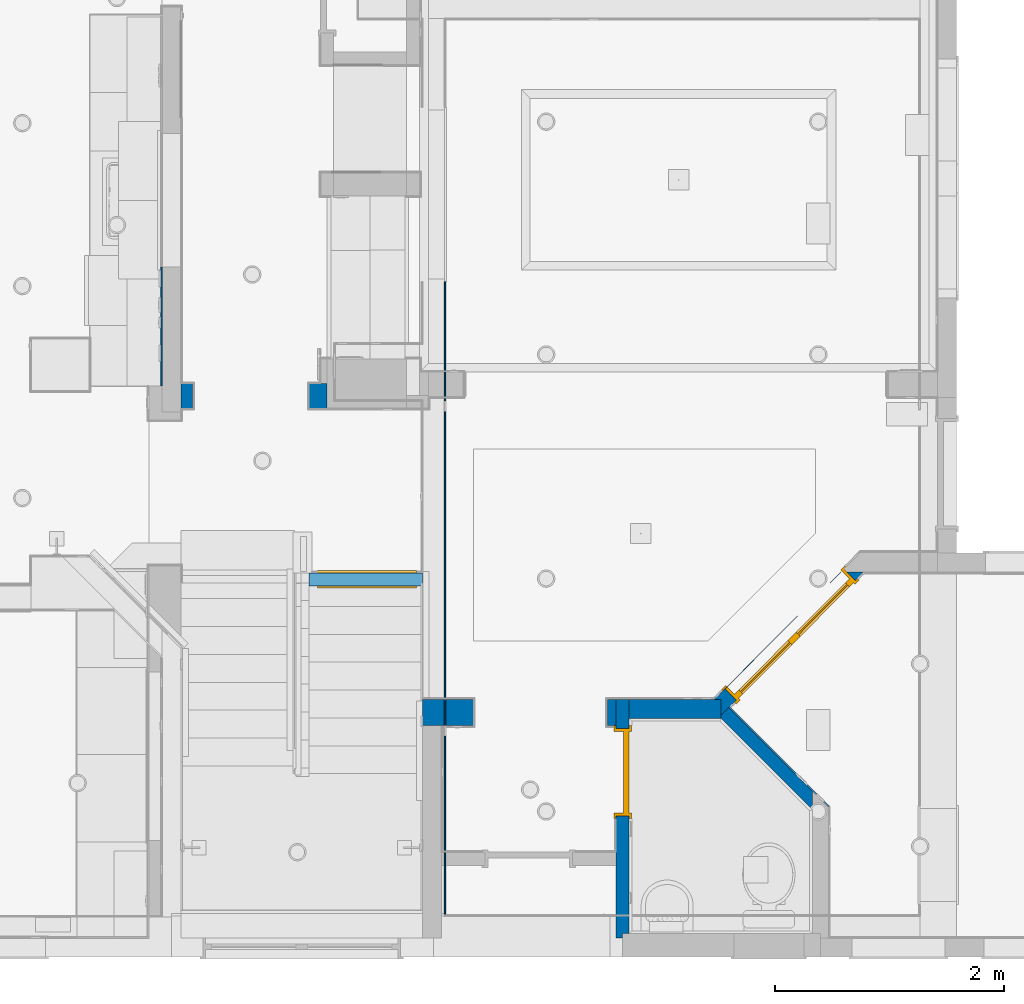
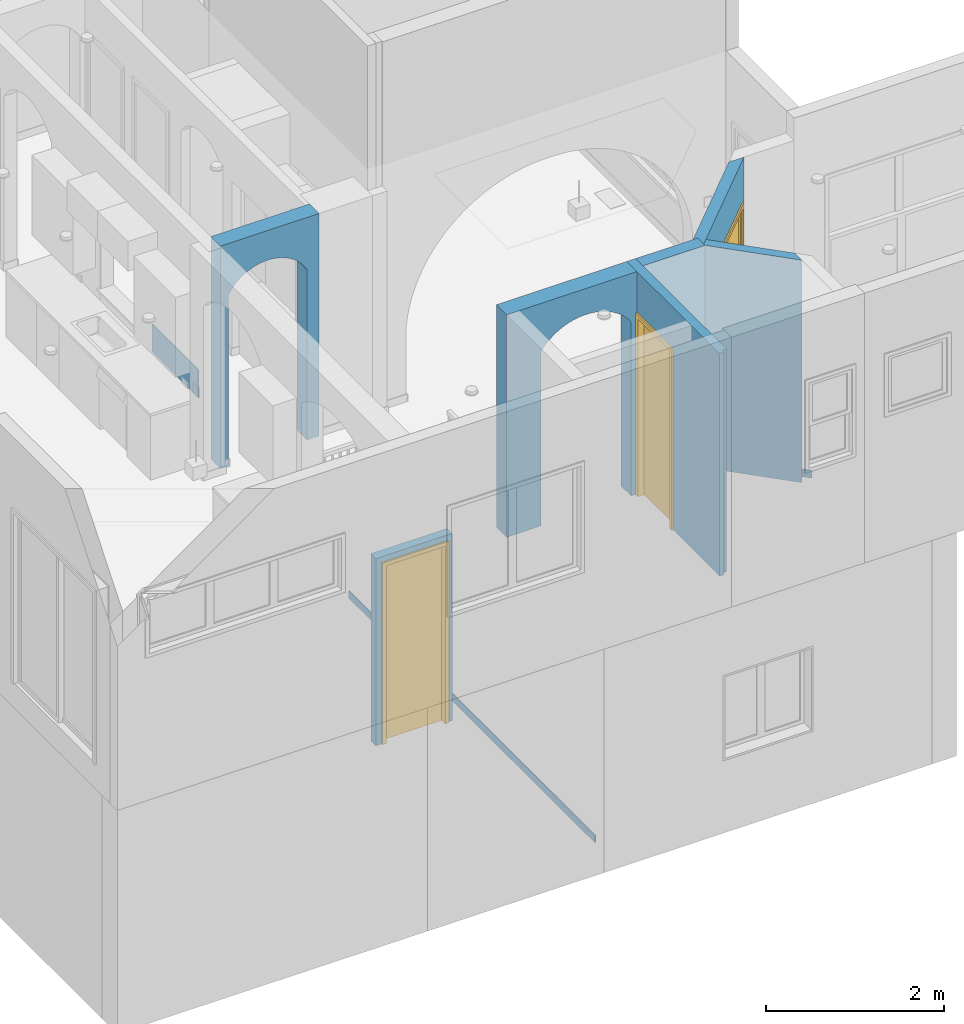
# One storey, part 5 of 60: 10 walls, 3 doors, 5 openings.
"""IFC2X3 building model written with IfcOpenShell, lengths in feet."""

from ifc_helpers import new_model, entity, si_unit, converted_unit, direction, frame, frame_2d, origin, origin_2d_with_axis, place, context, subcontext, project, spatial, polyline, circle_curve, parameter, trimmed, segment, composite_curve, rectangle, outline, extrude, clip, bounded_halfspace, faceted_brep, source, transform, mapped, material, material_list, layer, layer_set, layer_usage, type_object, type_shapes, element, fill, save


model = new_model("IFC2X3")

# Units and contexts
model_context = context("Model", 3, precision=0.0001, world=origin(), true_north=direction((6.123031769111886e-17, 1.0)))
plan_context = context("Plan", 3, precision=0.0001, world=origin(), true_north=direction((6.123031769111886e-17, 1.0)))
body_context = subcontext(model_context, "Body", "Model", "MODEL_VIEW")
ifc_project = project(units=[converted_unit("LENGTHUNIT", "FOOT", entity("IfcLengthMeasure", 0.3048), si_unit("LENGTHUNIT", "METRE"), dimensions=[1, 0, 0, 0, 0, 0, 0]), converted_unit("AREAUNIT", "SQUARE FOOT", entity("IfcAreaMeasure", 0.09290304), si_unit("AREAUNIT", "SQUARE_METRE"), dimensions=[2, 0, 0, 0, 0, 0, 0]), converted_unit("PLANEANGLEUNIT", "DEGREE", entity("IfcPlaneAngleMeasure", 0.017453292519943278), si_unit("PLANEANGLEUNIT", "RADIAN"), dimensions=[0, 0, 0, 0, 0, 0, 0])], contexts=[model_context, plan_context])

# Site, building, storey
site_placement = place(None, origin())
site = spatial("IfcSite", under=ifc_project, at=site_placement, Name="Default", CompositionType="ELEMENT")
building_placement = place(site_placement, origin())
building = spatial("IfcBuilding", under=site, at=building_placement, CompositionType="ELEMENT")
storey_placement = place(building_placement, origin())
storey = spatial("IfcBuildingStorey", under=building, at=storey_placement, Name="First floor", CompositionType="ELEMENT", Elevation=0.0)

# Wall
ifc_material_1 = material(Name="Default New Material")
ifc_layer_1 = layer(ifc_material_1, 0.5416666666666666)
ifc_layer_set_1 = layer_set([ifc_layer_1], Name="Basic Wall:Wall_6.5\"")
ifc_layer_usage_1 = layer_usage(ifc_layer_set_1, "AXIS2", "NEGATIVE", 0.2708333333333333)
wall_type_1 = type_object("IfcWallType", Name="Basic Wall:Wall_6.5\"", PredefinedType="STANDARD", material=ifc_layer_set_1)
wall_1_placement = place(storey_placement, frame((26.291666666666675, 7.1041666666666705, 10.666666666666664)))
element("IfcWallStandardCase", 1, at=wall_1_placement, inside=storey, type_object=wall_type_1, material=ifc_layer_usage_1, Name="Basic Wall:Wall_6.5\"", ObjectType="Basic Wall:Wall_6.5\"", context=body_context, shape_type="SweptSolid", body=[
    extrude(rectangle(XDim=2.6363365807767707, YDim=0.5416666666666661, at=frame_2d((1.3181682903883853, 0.0), x_axis=(-1.0, 0.0))), origin(), (0.0, 0.0, 1.0), 10.0),
])

# Wall, opening
ifc_layer_2 = layer(ifc_material_1, 0.7083333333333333)
ifc_layer_set_2 = layer_set([ifc_layer_2], Name="Basic Wall:Wall_8.5\"")
ifc_layer_usage_2 = layer_usage(ifc_layer_set_2, "AXIS2", "POSITIVE", -0.35416666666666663)
wall_type_2 = type_object("IfcWallType", Name="Basic Wall:Wall_8.5\"", PredefinedType="STANDARD", material=ifc_layer_set_2)
wall_2_placement = place(storey_placement, frame((17.64583333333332, 16.062154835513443, 10.666666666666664), z_axis=(0.0, 0.0, 1.0), x_axis=(-1.0, 0.0, 0.0)))
wall_2 = element("IfcWallStandardCase", 2, at=wall_2_placement, inside=storey, type_object=wall_type_2, material=ifc_layer_usage_2, Name="Basic Wall:Wall_8.5\"", ObjectType="Basic Wall:Wall_8.5\"", context=body_context, shape_type="SweptSolid", body=[
    extrude(rectangle(XDim=4.187499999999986, YDim=0.7083333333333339, at=frame_2d((2.093749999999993, -1.1934897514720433e-15), x_axis=(-1.0, 0.0))), origin(), (0.0, 0.0, 1.0), 10.0),
])
opening_1_placement = place(wall_2_placement, frame((17.645833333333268, 16.0621548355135, -10.666666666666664)))
element("IfcOpeningElement", 3, at=opening_1_placement, cuts=wall_2, Name="Basic Wall:Wall_8.5\"", ObjectType="Opening", context=body_context, shape_type="SweptSolid", body=[
    extrude(outline(composite_curve([segment(polyline([(-3.8333333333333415, -1.6666666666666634), (3.8333333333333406, -1.6666666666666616)]), True, "CONTINUOUS"), segment(polyline([(3.8333333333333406, -1.6666666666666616), (3.833333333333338, 1.666666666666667)]), True, "CONTINUOUS"), segment(polyline([(3.833333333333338, 1.666666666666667), (-3.8333333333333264, 1.6666666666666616)]), True, "CONTINUOUS"), segment(trimmed(circle_curve(frame_2d((-2.9444444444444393, 0.0), x_axis=(1.0, 0.0)), 1.888888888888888), [parameter(118.07248693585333)], [parameter(241.92751306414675)], True, "PARAMETER"), True, "CONTINUOUS")], self_intersect=False)), frame((-15.458333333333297, -16.54132150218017, 14.500000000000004), z_axis=(0.0, 1.0, 0.0), x_axis=(0.0, 0.0, -1.0)), (0.0, 0.0, 1.0), 0.8333333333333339),
])

# Wall
ifc_layer_3 = layer(ifc_material_1, 0.375)
ifc_layer_set_3 = layer_set([ifc_layer_3], Name="Basic Wall:Wall_4.5\"")
ifc_layer_usage_3 = layer_usage(ifc_layer_set_3, "AXIS2", "NEGATIVE", 0.1875)
wall_type_3 = type_object("IfcWallType", Name="Basic Wall:Wall_4.5\"", PredefinedType="STANDARD", material=ifc_layer_set_3)
wall_3_placement = place(storey_placement, frame((29.01388792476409, 7.012613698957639, 10.666666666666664), z_axis=(0.0, 0.0, 1.0), x_axis=(0.7071067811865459, -0.7071067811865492, 0.0)))
element("IfcWallStandardCase", 4, at=wall_3_placement, inside=storey, type_object=wall_type_3, material=ifc_layer_usage_3, Name="Basic Wall:Wall_4.5\"", ObjectType="Basic Wall:Wall_4.5\"", context=body_context, shape_type="Clipping", body=[
    clip(clip(clip(extrude(outline(polyline([(3.3873189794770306, 0.1875), (0.0, 0.18750000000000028), (0.0008172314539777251, -0.09821757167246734), (-0.02317308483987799, -0.09828619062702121), (0.06604072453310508, -0.18750000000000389), (3.7623189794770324, -0.18750000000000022), (3.3873189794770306, 0.1875)])), origin(), (0.0, 0.0, 1.0), 10.0), bounded_halfspace(frame((0.0008172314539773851, -0.09821757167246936, 0.0), z_axis=(0.9999959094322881, 0.0028602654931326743, 0.0), x_axis=(-0.0028602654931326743, 0.9999959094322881, 0.0)), True, frame((0.0008172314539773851, -0.09821757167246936, 0.0), z_axis=(0.9999959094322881, 0.0028602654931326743, 0.0), x_axis=(-0.0028602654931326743, 0.9999959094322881, 0.0)), polyline([(0.0, 0.0), (0.28571874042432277, 0.0), (0.28571874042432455, 10.0), (0.0, 10.0), (0.0, 0.0)]))), bounded_halfspace(frame((0.0008172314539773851, -0.09821757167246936, 10.0), z_axis=(0.0028602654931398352, -0.9999959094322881, 0.0), x_axis=(0.9999959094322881, 0.0028602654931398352, 0.0)), True, frame((0.0008172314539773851, -0.09821757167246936, 10.0), z_axis=(0.0028602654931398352, -0.9999959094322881, 0.0), x_axis=(0.9999959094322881, 0.0028602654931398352, 0.0)), polyline([(0.0, 0.0), (-0.023990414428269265, 0.0), (-0.023990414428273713, -10.0), (0.0, -10.0), (0.0, 0.0)]))), bounded_halfspace(frame((0.06604072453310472, -0.18749999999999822, 0.0), z_axis=(0.7071067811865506, 0.7071067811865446, 0.0), x_axis=(-0.7071067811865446, 0.7071067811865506, 0.0)), True, frame((0.06604072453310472, -0.18749999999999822, 0.0), z_axis=(0.7071067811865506, 0.7071067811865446, 0.0), x_axis=(-0.7071067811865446, 0.7071067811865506, 0.0)), polyline([(0.0, 0.0), (0.12616737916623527, 0.0), (0.12616737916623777, 10.0), (0.0, 10.0), (0.0, 0.0)]))),
])

# Wall, opening, door
wall_4_placement = place(storey_placement, frame((26.104166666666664, 0.5416666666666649, 10.666666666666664), z_axis=(0.0, 0.0, 1.0), x_axis=(0.0, 1.0, 0.0)))
wall_4 = element("IfcWall", 5, at=wall_4_placement, inside=storey, type_object=wall_type_3, Name="Basic Wall:Wall_4.5\"", ObjectType="Basic Wall:Wall_4.5\"", context=body_context, shape_type="Brep", body=[
    faceted_brep([(0.12500000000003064, -0.18749999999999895, 0.0), (3.5000000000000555, -0.18749999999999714, 0.0), (3.5000000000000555, -0.18749999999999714, 8.083333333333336), (6.0, -0.18750000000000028, 8.083333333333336), (6.0, -0.18750000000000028, 0.0), (6.291666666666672, -0.1874999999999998, 0.0), (6.833333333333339, -0.18749999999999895, 0.0), (6.833333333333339, -0.18749999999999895, 10.0), (6.291666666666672, -0.1874999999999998, 10.0), (0.12500000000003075, -0.18749999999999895, 10.0), (3.500000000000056, 0.18750000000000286, 8.083333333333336), (3.500000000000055, 0.18750000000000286, 0.0), (2.4583333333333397, 0.18750000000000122, 0.0), (2.0833333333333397, 0.1875000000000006, 0.0), (0.0, 0.18750000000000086, 0.0), (0.0, 0.18750000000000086, 10.0), (2.0833333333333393, 0.1875000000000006, 10.0), (2.4583333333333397, 0.18750000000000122, 10.0), (6.083333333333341, 0.18749999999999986, 10.0), (6.833333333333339, 0.18750000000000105, 10.0), (6.833333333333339, 0.18750000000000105, 0.0), (6.083333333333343, 0.18749999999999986, 0.0), (6.0, 0.18749999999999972, 0.0), (6.0, 0.18749999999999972, 8.083333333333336), (0.12500000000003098, 0.0, 0.0), (0.0, 0.0, 0.0), (0.0, 0.0, 10.0), (0.12500000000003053, 0.0, 10.0)], [[[0, 1, 2, 3, 4, 5, 6, 7, 8, 9]], [[10, 11, 12, 13, 14, 15, 16, 17, 18, 19, 20, 21, 22, 23]], [[14, 13, 12, 11, 1, 0, 24, 25]], [[9, 8, 7, 19, 18, 17, 16, 15, 26, 27]], [[0, 9, 27, 24]], [[27, 26, 25, 24]], [[26, 15, 14, 25]], [[7, 6, 20, 19]], [[2, 1, 11, 10]], [[3, 2, 10, 23]], [[4, 3, 23, 22]], [[22, 21, 20, 6, 5, 4]]]),
])
opening_2_placement = place(wall_4_placement, frame((6.0, 0.1874999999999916, 0.0)))
opening_2 = element("IfcOpeningElement", 6, at=opening_2_placement, cuts=wall_4, Name="C_Single Door:2'-4\" X 8'-0\":1", ObjectType="Opening", context=body_context, shape_type="SweptSolid", body=[
    extrude(rectangle(XDim=2.4999999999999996, YDim=8.083333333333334, at=frame_2d((4.041666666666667, 1.2500000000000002), x_axis=(0.0, 1.0))), frame((0.0, 0.0, 0.0), z_axis=(0.0, -1.0, 0.0), x_axis=(0.0, 0.0, 1.0)), (0.0, 0.0, 1.0), 0.375),
])
door_style_1 = type_object("IfcDoorStyle", Name="C_Single Door:2'-4\" X 8'-0\"", ConstructionType="NOTDEFINED", OperationType="SINGLE_SWING_RIGHT", ParameterTakesPrecedence=False, Sizeable=False, material=ifc_material_1)
shared_shape_1 = source(origin(), body_context, "Body", "SweptSolid", [
    extrude(rectangle(XDim=2.333333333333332, YDim=0.16666666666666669, at=origin_2d_with_axis()), frame((1.2500000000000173, 0.08333333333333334, 0.0)), (0.0, 0.0, 1.0), 8.0),
    extrude(outline(polyline([(-3.958333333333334, 1.1666666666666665), (4.041666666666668, 1.1666666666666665), (4.041666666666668, 1.3333333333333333), (-4.125000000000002, 1.3333333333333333), (-4.125000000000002, -1.3333333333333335), (4.041666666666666, -1.3333333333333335), (4.041666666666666, -1.1666666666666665), (-3.958333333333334, -1.1666666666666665), (-3.958333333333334, 1.1666666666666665)])), frame((1.2500000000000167, 0.0, 4.041666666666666), z_axis=(0.0, -1.0, 0.0), x_axis=(0.0, 0.0, -1.0)), (0.0, 0.0, 1.0), 0.0625),
    extrude(outline(polyline([(-3.958333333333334, 1.1666666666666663), (4.041666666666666, 1.1666666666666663), (4.041666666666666, 1.3333333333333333), (-4.125, 1.3333333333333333), (-4.125, -1.3333333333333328), (4.041666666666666, -1.3333333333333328), (4.041666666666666, -1.1666666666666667), (-3.958333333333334, -1.1666666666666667), (-3.958333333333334, 1.1666666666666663)])), frame((1.2500000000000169, 0.4375, 4.041666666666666), z_axis=(0.0, -1.0, 0.0), x_axis=(0.0, 0.0, -1.0)), (0.0, 0.0, 1.0), 0.0625),
    extrude(outline(polyline([(1.1666666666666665, -4.020833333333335), (1.249999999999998, -4.020833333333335), (1.2499999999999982, 4.0625), (-1.2499999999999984, 4.0625), (-1.2499999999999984, -4.020833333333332), (-1.1666666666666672, -4.020833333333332), (-1.1666666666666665, 3.979166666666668), (1.1666666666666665, 3.979166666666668), (1.1666666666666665, -4.020833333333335)])), frame((1.2500000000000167, 0.375, 4.020833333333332), z_axis=(0.0, -1.0, 0.0), x_axis=(1.0, 0.0, 0.0)), (0.0, 0.0, 1.0), 0.375),
])
type_shapes(door_style_1, [shared_shape_1])
door_1_placement = place(opening_2_placement, frame((-2.499999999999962, -0.37499999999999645, 0.0)))
door_1 = element("IfcDoor", 7, at=door_1_placement, inside=storey, type_object=door_style_1, material=ifc_material_1, Name="C_Single Door:2'-4\" X 8'-0\"", ObjectType="C_Single Door:2'-4\" X 8'-0\"", OverallHeight=8.083333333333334, OverallWidth=2.5, context=body_context, shape_type="MappedRepresentation", body=[
    mapped(shared_shape_1, transform((0.0, 0.0, 0.0), scale=1.0)),
])
fill(opening_2, door_1)

ifc_layer_usage_4 = layer_usage(ifc_layer_set_3, "AXIS2", "NEGATIVE", 0.1875)
wall_5_placement = place(storey_placement, frame((20.37499999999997, 10.812499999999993, 0.0), z_axis=(0.0, 0.0, 1.0), x_axis=(-1.0, 0.0, 0.0)))
wall_5 = element("IfcWallStandardCase", 8, at=wall_5_placement, inside=storey, type_object=wall_type_3, material=ifc_layer_usage_4, Name="Basic Wall:Wall_4.5\"", ObjectType="Basic Wall:Wall_4.5\"", context=body_context, shape_type="SweptSolid", body=[
    extrude(rectangle(XDim=3.250000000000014, YDim=0.375, at=frame_2d((1.625000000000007, -6.245004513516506e-16), x_axis=(1.0, 0.0))), origin(), (0.0, 0.0, 1.0), 8.416666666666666),
])
opening_3_placement = place(wall_5_placement, frame((2.9166666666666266, 0.18749999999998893, 0.0)))
opening_3 = element("IfcOpeningElement", 9, at=opening_3_placement, cuts=wall_5, Name="C_Single Door:2'-6\" X 8'-0\":1", ObjectType="Opening", context=body_context, shape_type="SweptSolid", body=[
    extrude(rectangle(XDim=2.666666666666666, YDim=8.083333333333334, at=frame_2d((4.041666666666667, 1.333333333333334), x_axis=(0.0, -1.0))), frame((0.0, 0.0, 0.0), z_axis=(0.0, -1.0, 0.0), x_axis=(0.0, 0.0, 1.0)), (0.0, 0.0, 1.0), 0.375),
])
door_style_2 = type_object("IfcDoorStyle", Name="C_Single Door:2'-6\" X 8'-0\"", ConstructionType="NOTDEFINED", OperationType="SINGLE_SWING_LEFT", ParameterTakesPrecedence=False, Sizeable=False, material=ifc_material_1)
shared_shape_2 = source(origin(), body_context, "Body", "SweptSolid", [
    extrude(rectangle(XDim=0.16666666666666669, YDim=2.499999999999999, at=origin_2d_with_axis()), frame((1.3333333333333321, 0.08333333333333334, 0.0), z_axis=(0.0, 0.0, 1.0), x_axis=(0.0, 1.0, 0.0)), (0.0, 0.0, 1.0), 8.0),
    extrude(outline(polyline([(-3.958333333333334, 1.2499999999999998), (4.041666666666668, 1.2499999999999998), (4.041666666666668, 1.4166666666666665), (-4.125000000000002, 1.4166666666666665), (-4.125000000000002, -1.4166666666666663), (4.041666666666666, -1.4166666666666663), (4.041666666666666, -1.2499999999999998), (-3.958333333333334, -1.2499999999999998), (-3.958333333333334, 1.2499999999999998)])), frame((1.333333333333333, -0.0625, 4.041666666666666), z_axis=(0.0, 1.0, 0.0), x_axis=(0.0, 0.0, -1.0)), (0.0, 0.0, 1.0), 0.0625),
    extrude(outline(polyline([(-3.958333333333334, 1.2499999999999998), (4.041666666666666, 1.2499999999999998), (4.041666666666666, 1.4166666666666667), (-4.125, 1.4166666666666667), (-4.125, -1.4166666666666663), (4.041666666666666, -1.4166666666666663), (4.041666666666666, -1.2500000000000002), (-3.958333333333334, -1.2500000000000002), (-3.958333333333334, 1.2499999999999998)])), frame((1.3333333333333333, 0.375, 4.041666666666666), z_axis=(0.0, 1.0, 0.0), x_axis=(0.0, 0.0, -1.0)), (0.0, 0.0, 1.0), 0.0625),
    extrude(outline(polyline([(-4.020833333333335, -1.3333333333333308), (4.062499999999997, -1.3333333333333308), (4.062499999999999, 1.3333333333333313), (-4.020833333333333, 1.3333333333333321), (-4.020833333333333, 1.2499999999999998), (3.979166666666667, 1.2499999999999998), (3.979166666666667, -1.2499999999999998), (-4.020833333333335, -1.2499999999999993), (-4.020833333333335, -1.3333333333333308)])), frame((1.3333333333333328, 0.0, 4.020833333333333), z_axis=(0.0, 1.0, 0.0), x_axis=(0.0, 0.0, 1.0)), (0.0, 0.0, 1.0), 0.375),
])
type_shapes(door_style_2, [shared_shape_2])
door_2_placement = place(opening_3_placement, frame((-2.666666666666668, -0.37499999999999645, 0.0)))
door_2 = element("IfcDoor", 10, at=door_2_placement, inside=storey, type_object=door_style_2, material=ifc_material_1, Name="C_Single Door:2'-6\" X 8'-0\"", ObjectType="C_Single Door:2'-6\" X 8'-0\"", OverallHeight=8.083333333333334, OverallWidth=2.666666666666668, context=body_context, shape_type="MappedRepresentation", body=[
    mapped(shared_shape_2, transform((0.0, 0.0, 0.0), scale=1.0)),
])
fill(opening_3, door_2)

ifc_layer_4 = layer(ifc_material_1, 0.45833333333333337)
ifc_layer_set_4 = layer_set([ifc_layer_4], Name="Basic Wall:Wall_5.5\"")
ifc_layer_usage_5 = layer_usage(ifc_layer_set_4, "AXIS2", "NEGATIVE", 0.22916666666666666)
wall_type_4 = type_object("IfcWallType", Name="Basic Wall:Wall_5.5\"", PredefinedType="STANDARD", material=ifc_layer_set_4)
wall_6_placement = place(storey_placement, frame((32.837491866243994, 11.182414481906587, 10.666666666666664), z_axis=(0.0, 0.0, 1.0), x_axis=(-0.7050813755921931, -0.7091264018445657, 0.0)))
wall_6 = element("IfcWallStandardCase", 11, at=wall_6_placement, inside=storey, type_object=wall_type_4, material=ifc_layer_usage_5, Name="Basic Wall:Wall_5.5\"", ObjectType="Basic Wall:Wall_5.5\"", context=body_context, shape_type="Clipping", body=[
    clip(clip(extrude(outline(polyline([(5.75108725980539, 0.22916666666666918), (5.465368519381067, 0.22916666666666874), (0.0, 0.22916666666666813), (0.4557188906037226, -0.22916666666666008), (5.597021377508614, -0.22916666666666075), (5.4564457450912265, -0.08778455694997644), (5.75108725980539, 0.20517625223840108), (5.75108725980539, 0.22916666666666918)])), origin(), (0.0, 0.0, 1.0), 10.0), bounded_halfspace(frame((5.456445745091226, -0.08778455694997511, 0.0), z_axis=(-0.709126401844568, -0.7050813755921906, 0.0), x_axis=(0.7050813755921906, -0.709126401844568, 0.0)), True, frame((5.456445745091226, -0.08778455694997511, 0.0), z_axis=(-0.709126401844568, -0.7050813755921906, 0.0), x_axis=(0.7050813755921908, -0.7091264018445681, 0.0)), polyline([(0.0, 0.0), (0.1993750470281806, 0.0), (0.19937504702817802, 10.0), (0.0, 10.0), (0.0, 0.0)]))), bounded_halfspace(frame((5.456445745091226, -0.08778455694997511, 10.0), z_axis=(-0.7050813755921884, 0.7091264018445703, 0.0), x_axis=(-0.7091264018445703, -0.7050813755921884, 0.0)), True, frame((5.456445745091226, -0.08778455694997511, 10.0), z_axis=(-0.7050813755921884, 0.7091264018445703, 0.0), x_axis=(-0.7091264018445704, -0.7050813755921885, 0.0)), polyline([(0.0, 0.0), (-0.4154992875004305, 0.0), (-0.415499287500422, -10.0), (0.0, -10.0), (0.0, 0.0)]))),
])
opening_4_placement = place(wall_6_placement, frame((0.333987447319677, -0.22821230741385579, 0.0)))
opening_4 = element("IfcOpeningElement", 12, at=opening_4_placement, cuts=wall_6, Name="C_Double Door Glass:4'-8\" X 8'-0\":1", ObjectType="Opening", context=body_context, shape_type="SweptSolid", body=[
    extrude(rectangle(XDim=8.083333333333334, YDim=4.833333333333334, at=frame_2d((4.041666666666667, 2.416666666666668), x_axis=(-1.0, 0.0))), frame((0.0, 0.0, 0.0), z_axis=(-0.002860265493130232, 0.9999959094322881, 0.0), x_axis=(0.0, 0.0, 1.0)), (0.0, 0.0, 1.0), 0.4583333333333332),
])
ifc_material_2 = material(Name="Glass")
ifc_material_list = material_list([ifc_material_1, ifc_material_2])
door_style_3 = type_object("IfcDoorStyle", Name="C_Double Door Glass:4'-8\" X 8'-0\"", ConstructionType="NOTDEFINED", OperationType="DOUBLE_DOOR_SINGLE_SWING_OPPOSITE_RIGHT", ParameterTakesPrecedence=False, Sizeable=False, material=ifc_material_list)
shared_shape_3 = source(origin(), body_context, "Body", "SweptSolid", [
    extrude(rectangle(XDim=1.9999999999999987, YDim=0.04166666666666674, at=origin_2d_with_axis()), frame((3.5833333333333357, 0.08333333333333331, 2.7013888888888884), z_axis=(0.0, 0.0, 1.0), x_axis=(-1.0, 0.0, 0.0)), (0.0, 0.0, 1.0), 0.04166666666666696),
    extrude(rectangle(XDim=1.9999999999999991, YDim=0.04166666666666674, at=origin_2d_with_axis()), frame((3.583333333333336, 0.08333333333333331, 5.256944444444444), z_axis=(0.0, 0.0, 1.0), x_axis=(-1.0, 0.0, 0.0)), (0.0, 0.0, 1.0), 0.041666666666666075),
    extrude(rectangle(XDim=0.04166666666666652, YDim=0.04166666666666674, at=frame_2d((5.551115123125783e-17, 0.0), x_axis=(1.0, 0.0))), frame((3.25, 0.08333333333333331, 0.16666666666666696), z_axis=(0.0, 0.0, 1.0), x_axis=(-1.0, 0.0, 0.0)), (0.0, 0.0, 1.0), 7.666666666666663),
    extrude(rectangle(XDim=0.04166666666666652, YDim=0.04166666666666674, at=origin_2d_with_axis()), frame((3.916666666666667, 0.08333333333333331, 0.16666666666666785), z_axis=(0.0, 0.0, 1.0), x_axis=(-1.0, 0.0, 0.0)), (0.0, 0.0, 1.0), 7.666666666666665),
    extrude(rectangle(XDim=1.9999999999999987, YDim=0.04166666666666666, at=frame_2d((0.0, -1.3877787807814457e-17), x_axis=(1.0, 0.0))), frame((3.5833333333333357, 0.08333333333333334, 0.16666666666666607), z_axis=(0.0, 0.0, 1.0), x_axis=(-1.0, 0.0, 0.0)), (0.0, 0.0, 1.0), 7.666666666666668),
    extrude(outline(polyline([(-1.166666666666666, -4.0), (1.166666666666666, -4.0), (1.166666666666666, 4.0), (-1.166666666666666, 4.0), (-1.166666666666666, -4.0)]), holes=[polyline([(1.0, -3.833333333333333), (-1.0, -3.833333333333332), (-1.0, 3.833333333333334), (1.0, 3.833333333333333), (1.0, -3.833333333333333)])]), frame((3.5833333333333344, 0.0, 4.0), z_axis=(0.0, 1.0, 0.0), x_axis=(1.0, 0.0, 0.0)), (0.0, 0.0, 1.0), 0.16666666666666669),
    extrude(rectangle(XDim=0.04166666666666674, YDim=1.9999999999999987, at=frame_2d((0.0, 2.220446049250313e-16), x_axis=(1.0, 0.0))), frame((1.2499999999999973, 0.08333333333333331, 2.7013888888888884), z_axis=(0.0, 0.0, 1.0), x_axis=(0.0, -1.0, 0.0)), (0.0, 0.0, 1.0), 0.04166666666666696),
    extrude(rectangle(XDim=0.04166666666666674, YDim=1.9999999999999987, at=frame_2d((0.0, 2.220446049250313e-16), x_axis=(1.0, 0.0))), frame((1.2499999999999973, 0.08333333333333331, 5.256944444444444), z_axis=(0.0, 0.0, 1.0), x_axis=(0.0, -1.0, 0.0)), (0.0, 0.0, 1.0), 0.041666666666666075),
    extrude(rectangle(XDim=0.04166666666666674, YDim=0.04166666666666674, at=frame_2d((0.0, -5.551115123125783e-17), x_axis=(1.0, 0.0))), frame((1.5833333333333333, 0.08333333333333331, 0.16666666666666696), z_axis=(0.0, 0.0, 1.0), x_axis=(0.0, -1.0, 0.0)), (0.0, 0.0, 1.0), 7.666666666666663),
    extrude(rectangle(XDim=0.04166666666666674, YDim=0.04166666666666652, at=origin_2d_with_axis()), frame((0.9166666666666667, 0.08333333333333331, 0.16666666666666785), z_axis=(0.0, 0.0, 1.0), x_axis=(0.0, -1.0, 0.0)), (0.0, 0.0, 1.0), 7.666666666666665),
    extrude(rectangle(XDim=0.04166666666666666, YDim=1.9999999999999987, at=frame_2d((-1.3877787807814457e-17, 2.220446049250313e-16), x_axis=(1.0, 0.0))), frame((1.2499999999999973, 0.08333333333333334, 0.16666666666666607), z_axis=(0.0, 0.0, 1.0), x_axis=(0.0, -1.0, 0.0)), (0.0, 0.0, 1.0), 7.666666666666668),
    extrude(outline(polyline([(-4.0, -1.166666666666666), (4.0, -1.166666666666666), (4.0, 1.166666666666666), (-4.0, 1.166666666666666), (-4.0, -1.166666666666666)]), holes=[polyline([(-3.833333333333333, 1.0), (3.833333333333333, 1.0), (3.833333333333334, -1.0), (-3.833333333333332, -1.0), (-3.833333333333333, 1.0)])]), frame((1.2499999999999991, 0.0, 4.0), z_axis=(0.0, 1.0, 0.0), x_axis=(0.0, 0.0, -1.0)), (0.0, 0.0, 1.0), 0.16666666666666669),
    extrude(outline(polyline([(-3.958333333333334, 2.333333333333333), (4.041666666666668, 2.333333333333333), (4.041666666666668, 2.4999999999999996), (-4.125, 2.4999999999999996), (-4.125, -2.499999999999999), (4.041666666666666, -2.499999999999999), (4.041666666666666, -2.333333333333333), (-3.958333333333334, -2.333333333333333), (-3.958333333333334, 2.333333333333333)])), frame((2.4166666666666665, -0.06249999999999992, 4.041666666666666), z_axis=(0.0, 1.0, 0.0), x_axis=(0.0, 0.0, -1.0)), (0.0, 0.0, 1.0), 0.06249999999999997),
    extrude(outline(polyline([(-3.958333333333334, 2.333333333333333), (4.041666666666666, 2.333333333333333), (4.041666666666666, 2.5), (-4.125, 2.5), (-4.125, -2.499999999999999), (4.041666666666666, -2.499999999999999), (4.041666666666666, -2.333333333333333), (-3.958333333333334, -2.333333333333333), (-3.958333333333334, 2.333333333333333)])), frame((2.416666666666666, 0.45833333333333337, 4.041666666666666), z_axis=(0.0, 1.0, 0.0), x_axis=(0.0, 0.0, -1.0)), (0.0, 0.0, 1.0), 0.06249999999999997),
    extrude(outline(polyline([(-4.020833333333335, -2.4166666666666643), (4.062499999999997, -2.4166666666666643), (4.062499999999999, 2.4166666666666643), (-4.020833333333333, 2.416666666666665), (-4.020833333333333, 2.3333333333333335), (3.979166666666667, 2.3333333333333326), (3.979166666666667, -2.3333333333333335), (-4.020833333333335, -2.3333333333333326), (-4.020833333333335, -2.4166666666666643)])), frame((2.416666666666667, 0.0, 4.020833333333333), z_axis=(0.0, 1.0, 0.0), x_axis=(0.0, 0.0, 1.0)), (0.0, 0.0, 1.0), 0.45833333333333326),
])
type_shapes(door_style_3, [shared_shape_3])
door_3_placement = place(opening_4_placement, frame((4.832002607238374, 0.4721560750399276, 0.0), z_axis=(0.0, 0.0, 1.0), x_axis=(-1.0, 0.0, 0.0)))
door_3 = element("IfcDoor", 13, at=door_3_placement, inside=storey, type_object=door_style_3, material=ifc_material_list, Name="C_Double Door Glass:4'-8\" X 8'-0\"", ObjectType="C_Double Door Glass:4'-8\" X 8'-0\"", OverallHeight=8.083333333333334, OverallWidth=4.833333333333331, context=body_context, shape_type="MappedRepresentation", body=[
    mapped(shared_shape_3, transform((0.0, 0.0, 0.0), scale=1.0)),
])
fill(opening_4, door_3)

# Wall, opening
ifc_layer_5 = layer(ifc_material_1, 0.75)
ifc_layer_set_5 = layer_set([ifc_layer_5], Name="Basic Wall:Wall_9\"")
ifc_layer_usage_6 = layer_usage(ifc_layer_set_5, "AXIS2", "NEGATIVE", 0.37500000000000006)
wall_type_5 = type_object("IfcWallType", Name="Basic Wall:Wall_9\"", PredefinedType="STANDARD", material=ifc_layer_set_5)
wall_7_placement = place(storey_placement, frame((25.916666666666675, 7.0, 10.666666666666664), z_axis=(0.0, 0.0, 1.0), x_axis=(-1.0, 0.0, 0.0)))
wall_7 = element("IfcWallStandardCase", 14, at=wall_7_placement, inside=storey, type_object=wall_type_5, material=ifc_layer_usage_6, Name="Basic Wall:Wall_9\"", ObjectType="Basic Wall:Wall_9\"", context=body_context, shape_type="SweptSolid", body=[
    extrude(rectangle(XDim=5.541666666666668, YDim=0.7500000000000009, at=frame_2d((2.770833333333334, -4.440892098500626e-16), x_axis=(1.0, 0.0))), origin(), (0.0, 0.0, 1.0), 10.0),
])
opening_5_placement = place(wall_7_placement, frame((25.916666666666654, 7.0, -10.666666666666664)))
element("IfcOpeningElement", 15, at=opening_5_placement, cuts=wall_7, Name="Basic Wall:Wall_9\"", ObjectType="Opening", context=body_context, shape_type="SweptSolid", body=[
    extrude(outline(composite_curve([segment(trimmed(circle_curve(frame_2d((-2.5798611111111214, 0.0), x_axis=(1.0, 0.0)), 2.3368055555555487), [parameter(124.89437684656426)], [parameter(235.10562315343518)], True, "PARAMETER"), True, "CONTINUOUS"), segment(polyline([(-3.916666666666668, -1.9166666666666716), (3.916666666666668, -1.9166666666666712)]), True, "CONTINUOUS"), segment(polyline([(3.916666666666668, -1.9166666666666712), (3.916666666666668, 1.9166666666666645)]), True, "CONTINUOUS"), segment(polyline([(3.916666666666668, 1.9166666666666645), (-3.916666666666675, 1.916666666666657)]), True, "CONTINUOUS")], self_intersect=False)), frame((-23.74999999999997, -7.375000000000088, 14.583333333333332), z_axis=(0.0, 1.0, 0.0), x_axis=(0.0, 0.0, -1.0)), (0.0, 0.0, 1.0), 0.75),
])

# Walls
ifc_layer_6 = layer(ifc_material_1, 0.041666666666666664)
ifc_layer_set_6 = layer_set([ifc_layer_6], Name="Basic Wall:Wall Border_T1")
ifc_layer_usage_7 = layer_usage(ifc_layer_set_6, "AXIS2", "POSITIVE", -0.020833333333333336)
wall_type_6 = type_object("IfcWallType", Name="Basic Wall:Wall Border_T1", PredefinedType="STANDARD", material=ifc_layer_set_6)
wall_8_placement = place(storey_placement, frame((21.02083333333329, 1.2083333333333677, 0.0), z_axis=(0.0, 0.0, 1.0), x_axis=(0.0, 1.0, 0.0)))
element("IfcWallStandardCase", 16, at=wall_8_placement, inside=storey, type_object=wall_type_6, material=ifc_layer_usage_7, Name="Basic Wall:Wall Border_T1", ObjectType="Basic Wall:Wall Border_T1", context=body_context, shape_type="SweptSolid", body=[
    extrude(rectangle(XDim=18.12499999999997, YDim=0.0416666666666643, at=frame_2d((9.062499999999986, -1.6132928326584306e-16), x_axis=(-1.0, 0.0))), origin(), (0.0, 0.0, 1.0), 0.3333333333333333),
])
ifc_layer_usage_8 = layer_usage(ifc_layer_set_6, "AXIS2", "POSITIVE", -0.020833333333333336)
wall_9_placement = place(storey_placement, frame((32.01473139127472, 4.306398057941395, 10.666666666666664), z_axis=(0.0, 0.0, 1.0), x_axis=(-0.707106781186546, 0.7071067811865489, 0.0)))
element("IfcWallStandardCase", 17, at=wall_9_placement, inside=storey, type_object=wall_type_6, material=ifc_layer_usage_8, Name="Basic Wall:Wall Border_T1", ObjectType="Basic Wall:Wall Border_T1", context=body_context, shape_type="SweptSolid", body=[
    extrude(outline(polyline([(4.035619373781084, -0.02083333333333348), (4.035500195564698, 0.020833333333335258), (0.0, 0.020833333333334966), (0.0416666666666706, -0.02083333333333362), (3.993952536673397, -0.020833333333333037), (4.035619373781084, -0.02083333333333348)])), origin(), (0.0, 0.0, 1.0), 0.3333333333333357),
])
ifc_layer_usage_9 = layer_usage(ifc_layer_set_6, "AXIS2", "NEGATIVE", 0.020833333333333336)
wall_10_placement = place(storey_placement, frame((12.89583333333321, 19.74965483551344, 13.666666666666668), z_axis=(0.0, 0.0, 1.0), x_axis=(0.0, -1.0, 0.0)))
element("IfcWallStandardCase", 18, at=wall_10_placement, inside=storey, type_object=wall_type_6, material=ifc_layer_usage_9, Name="Basic Wall:Wall Border_T1", ObjectType="Basic Wall:Wall Border_T1", context=body_context, shape_type="SweptSolid", body=[
    extrude(rectangle(XDim=3.395833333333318, YDim=0.04166666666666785, at=frame_2d((1.697916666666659, 0.0), x_axis=(-1.0, 0.0))), origin(), (0.0, 0.0, 1.0), 1.25),
])

save(model, "model.ifc")
